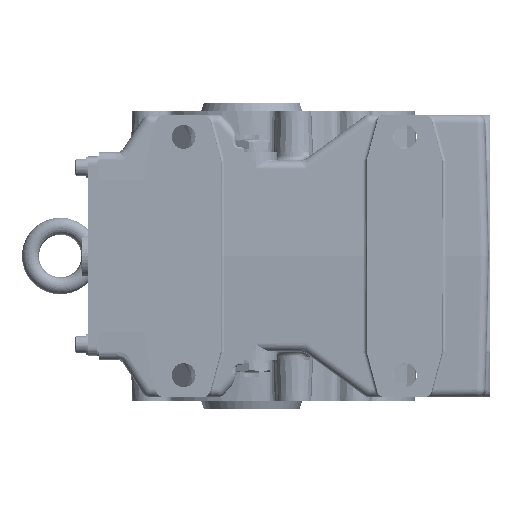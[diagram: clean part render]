
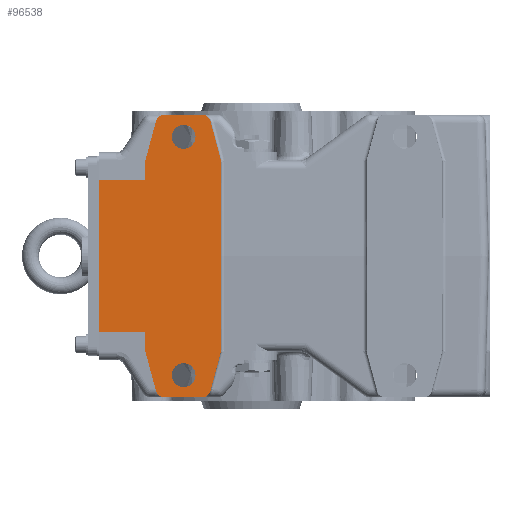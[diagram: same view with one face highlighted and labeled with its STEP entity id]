
A CAD part, left-side view. The second image highlights one B-rep face of the part: STEP entity #96538.
In plain terms, the highlighted planar face has unit normal (-1, 0, 0).
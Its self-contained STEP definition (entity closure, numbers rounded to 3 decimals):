
#53093=CARTESIAN_POINT('',(-90.,24.256,-79.297));
#53094=VERTEX_POINT('',#53093);
#53095=CARTESIAN_POINT('',(-90.,29.085,-83.));
#53096=VERTEX_POINT('',#53095);
#53097=CARTESIAN_POINT('',(-90.,29.085,-78.));
#53098=DIRECTION('',(1.0,0.0,0.0));
#53099=DIRECTION('',(0.0,-0.609,-0.794));
#53100=AXIS2_PLACEMENT_3D('',#53097,#53098,#53099);
#53101=CIRCLE('',#53100,5.0);
#53102=EDGE_CURVE('',#53094,#53096,#53101,.T.);
#53133=CARTESIAN_POINT('',(-90.,51.415,-83.));
#53134=VERTEX_POINT('',#53133);
#53135=CARTESIAN_POINT('',(-90.,29.085,-83.));
#53136=DIRECTION('',(0.0,1.0,0.0));
#53137=VECTOR('',#53136,22.331);
#53138=LINE('',#53135,#53137);
#53139=EDGE_CURVE('',#53096,#53134,#53138,.T.);
#53804=CARTESIAN_POINT('',(-90.,18.171,-56.637));
#53805=VERTEX_POINT('',#53804);
#53806=CARTESIAN_POINT('',(-90.0,18.171,-56.637));
#53807=DIRECTION('',(0.0,0.259,-0.966));
#53808=VECTOR('',#53807,23.462);
#53809=LINE('',#53806,#53808);
#53810=EDGE_CURVE('',#53805,#53094,#53809,.T.);
#53844=CARTESIAN_POINT('',(-90.,18.,-55.34));
#53845=VERTEX_POINT('',#53844);
#53846=CARTESIAN_POINT('',(-90.,23.,-55.34));
#53847=DIRECTION('',(1.0,0.0,0.0));
#53848=DIRECTION('',(0.0,-0.991,-0.131));
#53849=AXIS2_PLACEMENT_3D('',#53846,#53847,#53848);
#53850=CIRCLE('',#53849,5.0);
#53851=EDGE_CURVE('',#53845,#53805,#53850,.T.);
#53877=CARTESIAN_POINT('',(-90.,18.,-17.838));
#53878=VERTEX_POINT('',#53877);
#53879=CARTESIAN_POINT('',(-90.0,18.,-17.838));
#53880=DIRECTION('',(0.0,0.0,-1.0));
#53881=VECTOR('',#53880,37.503);
#53882=LINE('',#53879,#53881);
#53883=EDGE_CURVE('',#53878,#53845,#53882,.T.);
#53900=CARTESIAN_POINT('',(-90.,18.171,56.637));
#53901=VERTEX_POINT('',#53900);
#53902=CARTESIAN_POINT('',(-90.,18.,55.34));
#53903=VERTEX_POINT('',#53902);
#53904=CARTESIAN_POINT('',(-90.,23.,55.34));
#53905=DIRECTION('',(1.0,0.0,0.0));
#53906=DIRECTION('',(0.0,-0.991,0.131));
#53907=AXIS2_PLACEMENT_3D('',#53904,#53905,#53906);
#53908=CIRCLE('',#53907,5.0);
#53909=EDGE_CURVE('',#53901,#53903,#53908,.T.);
#57739=CARTESIAN_POINT('',(-90.,24.256,79.297));
#57740=VERTEX_POINT('',#57739);
#57741=CARTESIAN_POINT('',(-90.0,24.256,79.297));
#57742=DIRECTION('',(0.0,-0.259,-0.966));
#57743=VECTOR('',#57742,23.462);
#57744=LINE('',#57741,#57743);
#57745=EDGE_CURVE('',#57740,#53901,#57744,.T.);
#57972=CARTESIAN_POINT('',(-90.,17.945,0.));
#57973=VERTEX_POINT('',#57972);
#57974=CARTESIAN_POINT('',(-90.,16.,-17.838));
#57975=DIRECTION('',(-1.0,0.0,0.0));
#57976=DIRECTION('',(0.0,0.0,1.0));
#57977=AXIS2_PLACEMENT_3D('',#57974,#57975,#57976);
#57978=ELLIPSE('',#57977,76.403,2.0);
#57979=EDGE_CURVE('',#57973,#53878,#57978,.T.);
#58107=CARTESIAN_POINT('',(-90.,18.,17.838));
#58108=VERTEX_POINT('',#58107);
#58109=CARTESIAN_POINT('',(-90.,16.,17.838));
#58110=DIRECTION('',(-1.0,0.0,0.0));
#58111=DIRECTION('',(0.0,0.0,-1.0));
#58112=AXIS2_PLACEMENT_3D('',#58109,#58110,#58111);
#58113=ELLIPSE('',#58112,76.403,2.0);
#58114=EDGE_CURVE('',#58108,#57973,#58113,.T.);
#78144=CARTESIAN_POINT('',(-90.,56.244,-79.297));
#78145=VERTEX_POINT('',#78144);
#78146=CARTESIAN_POINT('',(-90.,62.329,-56.637));
#78147=VERTEX_POINT('',#78146);
#78148=CARTESIAN_POINT('',(-90.,56.244,-79.297));
#78149=DIRECTION('',(0.0,0.259,0.966));
#78150=VECTOR('',#78149,23.462);
#78151=LINE('',#78148,#78150);
#78152=EDGE_CURVE('',#78145,#78147,#78151,.T.);
#78183=CARTESIAN_POINT('',(-90.,51.415,-78.));
#78184=DIRECTION('',(1.0,0.0,0.0));
#78185=DIRECTION('',(0.0,0.609,-0.794));
#78186=AXIS2_PLACEMENT_3D('',#78183,#78184,#78185);
#78187=CIRCLE('',#78186,5.);
#78188=EDGE_CURVE('',#53134,#78145,#78187,.T.);
#95849=CARTESIAN_POINT('',(-90.,29.085,83.));
#95850=VERTEX_POINT('',#95849);
#95851=CARTESIAN_POINT('',(-90.,29.085,78.));
#95852=DIRECTION('',(1.0,0.0,0.0));
#95853=DIRECTION('',(0.0,-0.609,0.794));
#95854=AXIS2_PLACEMENT_3D('',#95851,#95852,#95853);
#95855=CIRCLE('',#95854,5.0);
#95856=EDGE_CURVE('',#95850,#57740,#95855,.T.);
#95874=CARTESIAN_POINT('',(-90.,51.415,83.));
#95875=VERTEX_POINT('',#95874);
#95876=CARTESIAN_POINT('',(-90.,51.415,83.));
#95877=DIRECTION('',(0.0,-1.0,0.0));
#95878=VECTOR('',#95877,22.331);
#95879=LINE('',#95876,#95878);
#95880=EDGE_CURVE('',#95875,#95850,#95879,.T.);
#95902=CARTESIAN_POINT('',(-90.0,18.,55.34));
#95903=DIRECTION('',(0.0,0.0,-1.0));
#95904=VECTOR('',#95903,37.503);
#95905=LINE('',#95902,#95904);
#95906=EDGE_CURVE('',#53903,#58108,#95905,.T.);
#95918=CARTESIAN_POINT('',(-90.,56.244,79.297));
#95919=VERTEX_POINT('',#95918);
#95920=CARTESIAN_POINT('',(-90.,51.415,78.));
#95921=DIRECTION('',(1.0,0.0,0.0));
#95922=DIRECTION('',(0.0,0.609,0.794));
#95923=AXIS2_PLACEMENT_3D('',#95920,#95921,#95922);
#95924=CIRCLE('',#95923,5.);
#95925=EDGE_CURVE('',#95919,#95875,#95924,.T.);
#95943=CARTESIAN_POINT('',(-90.,62.329,56.637));
#95944=VERTEX_POINT('',#95943);
#95945=CARTESIAN_POINT('',(-90.,62.329,56.637));
#95946=DIRECTION('',(0.0,-0.259,0.966));
#95947=VECTOR('',#95946,23.462);
#95948=LINE('',#95945,#95947);
#95949=EDGE_CURVE('',#95944,#95919,#95948,.T.);
#95975=CARTESIAN_POINT('',(-90.,62.5,55.34));
#95976=VERTEX_POINT('',#95975);
#95977=CARTESIAN_POINT('',(-90.,57.5,55.34));
#95978=DIRECTION('',(1.0,0.0,0.0));
#95979=DIRECTION('',(0.0,0.991,0.131));
#95980=AXIS2_PLACEMENT_3D('',#95977,#95978,#95979);
#95981=CIRCLE('',#95980,5.0);
#95982=EDGE_CURVE('',#95976,#95944,#95981,.T.);
#96008=CARTESIAN_POINT('',(-90.,62.5,-55.34));
#96009=VERTEX_POINT('',#96008);
#96010=CARTESIAN_POINT('',(-90.,62.5,-44.812));
#96011=VERTEX_POINT('',#96010);
#96012=CARTESIAN_POINT('',(-90.,62.5,-55.34));
#96013=DIRECTION('',(0.0,0.0,1.0));
#96014=VECTOR('',#96013,10.529);
#96015=LINE('',#96012,#96014);
#96016=EDGE_CURVE('',#96009,#96011,#96015,.T.);
#96040=CARTESIAN_POINT('',(-90.,62.5,44.812));
#96041=VERTEX_POINT('',#96040);
#96042=CARTESIAN_POINT('',(-90.,62.5,44.812));
#96043=DIRECTION('',(0.0,0.0,1.0));
#96044=VECTOR('',#96043,10.529);
#96045=LINE('',#96042,#96044);
#96046=EDGE_CURVE('',#96041,#95976,#96045,.T.);
#96063=CARTESIAN_POINT('',(-90.0,90.0,44.812));
#96064=VERTEX_POINT('',#96063);
#96071=CARTESIAN_POINT('',(-90.0,90.0,44.812));
#96072=DIRECTION('',(0.0,-1.0,0.0));
#96073=VECTOR('',#96072,27.5);
#96074=LINE('',#96071,#96073);
#96075=EDGE_CURVE('',#96064,#96041,#96074,.T.);
#96092=CARTESIAN_POINT('',(-90.0,90.0,-44.812));
#96093=VERTEX_POINT('',#96092);
#96120=CARTESIAN_POINT('',(-90.0,62.5,-44.812));
#96121=DIRECTION('',(0.0,1.0,0.0));
#96122=VECTOR('',#96121,27.5);
#96123=LINE('',#96120,#96122);
#96124=EDGE_CURVE('',#96011,#96093,#96123,.T.);
#96134=CARTESIAN_POINT('',(-90.,57.5,-55.34));
#96135=DIRECTION('',(1.0,0.0,0.0));
#96136=DIRECTION('',(0.0,0.991,-0.131));
#96137=AXIS2_PLACEMENT_3D('',#96134,#96135,#96136);
#96138=CIRCLE('',#96137,5.);
#96139=EDGE_CURVE('',#78147,#96009,#96138,.T.);
#96481=CARTESIAN_POINT('',(-90.,-15.242,0.735));
#96482=DIRECTION('',(1.0,0.0,0.0));
#96483=DIRECTION('',(0.0,0.0,-1.0));
#96484=AXIS2_PLACEMENT_3D('',#96481,#96482,#96483);
#96485=PLANE('',#96484);
#96486=CARTESIAN_POINT('',(-90.,90.0,44.812));
#96487=DIRECTION('',(0.0,0.0,-1.0));
#96488=VECTOR('',#96487,89.623);
#96489=LINE('',#96486,#96488);
#96490=EDGE_CURVE('',#96064,#96093,#96489,.T.);
#96491=ORIENTED_EDGE('',*,*,#96490,.T.);
#96492=ORIENTED_EDGE('',*,*,#96124,.F.);
#96493=ORIENTED_EDGE('',*,*,#96016,.F.);
#96494=ORIENTED_EDGE('',*,*,#96139,.F.);
#96495=ORIENTED_EDGE('',*,*,#78152,.F.);
#96496=ORIENTED_EDGE('',*,*,#78188,.F.);
#96497=ORIENTED_EDGE('',*,*,#53139,.F.);
#96498=ORIENTED_EDGE('',*,*,#53102,.F.);
#96499=ORIENTED_EDGE('',*,*,#53810,.F.);
#96500=ORIENTED_EDGE('',*,*,#53851,.F.);
#96501=ORIENTED_EDGE('',*,*,#53883,.F.);
#96502=ORIENTED_EDGE('',*,*,#57979,.F.);
#96503=ORIENTED_EDGE('',*,*,#58114,.F.);
#96504=ORIENTED_EDGE('',*,*,#95906,.F.);
#96505=ORIENTED_EDGE('',*,*,#53909,.F.);
#96506=ORIENTED_EDGE('',*,*,#57745,.F.);
#96507=ORIENTED_EDGE('',*,*,#95856,.F.);
#96508=ORIENTED_EDGE('',*,*,#95880,.F.);
#96509=ORIENTED_EDGE('',*,*,#95925,.F.);
#96510=ORIENTED_EDGE('',*,*,#95949,.F.);
#96511=ORIENTED_EDGE('',*,*,#95982,.F.);
#96512=ORIENTED_EDGE('',*,*,#96046,.F.);
#96513=ORIENTED_EDGE('',*,*,#96075,.F.);
#96514=EDGE_LOOP('',(#96491,#96492,#96493,#96494,#96495,#96496,#96497,#96498,#96499,#96500,#96501,#96502,#96503,#96504,#96505,#96506,#96507,#96508,#96509,#96510,#96511,#96512,#96513));
#96515=FACE_OUTER_BOUND('',#96514,.T.);
#96516=CARTESIAN_POINT('',(-90.,40.0,-63.0));
#96517=VERTEX_POINT('',#96516);
#96518=CARTESIAN_POINT('',(-90.,40.0,-70.0));
#96519=DIRECTION('',(1.0,0.0,0.0));
#96520=DIRECTION('',(0.0,0.0,1.0));
#96521=AXIS2_PLACEMENT_3D('',#96518,#96519,#96520);
#96522=CIRCLE('',#96521,7.);
#96523=EDGE_CURVE('',#96517,#96517,#96522,.T.);
#96524=ORIENTED_EDGE('',*,*,#96523,.T.);
#96525=EDGE_LOOP('',(#96524));
#96526=FACE_BOUND('',#96525,.T.);
#96527=CARTESIAN_POINT('',(-90.,40.0,77.0));
#96528=VERTEX_POINT('',#96527);
#96529=CARTESIAN_POINT('',(-90.,40.0,70.0));
#96530=DIRECTION('',(1.0,0.0,0.0));
#96531=DIRECTION('',(0.0,0.0,1.0));
#96532=AXIS2_PLACEMENT_3D('',#96529,#96530,#96531);
#96533=CIRCLE('',#96532,7.);
#96534=EDGE_CURVE('',#96528,#96528,#96533,.T.);
#96535=ORIENTED_EDGE('',*,*,#96534,.T.);
#96536=EDGE_LOOP('',(#96535));
#96537=FACE_BOUND('',#96536,.T.);
#96538=ADVANCED_FACE('',(#96515,#96526,#96537),#96485,.F.);
